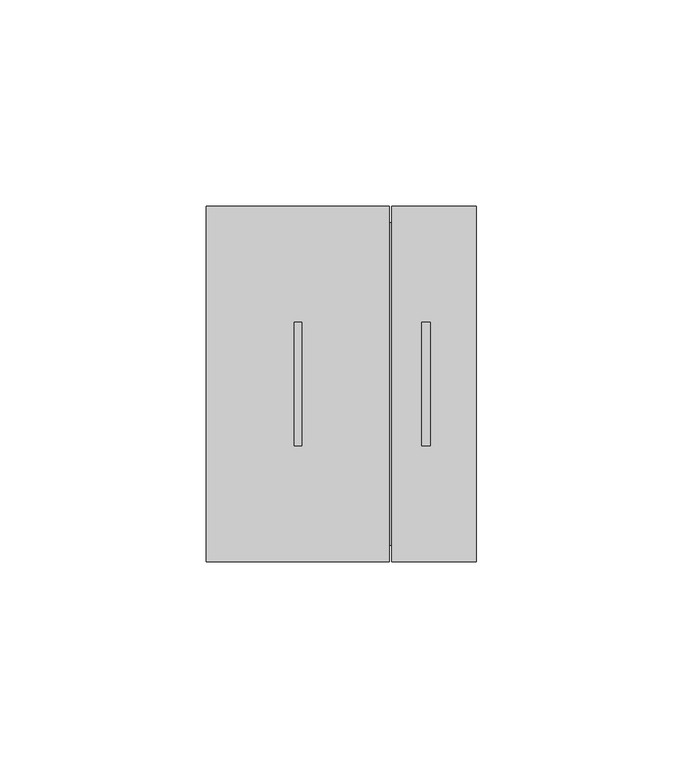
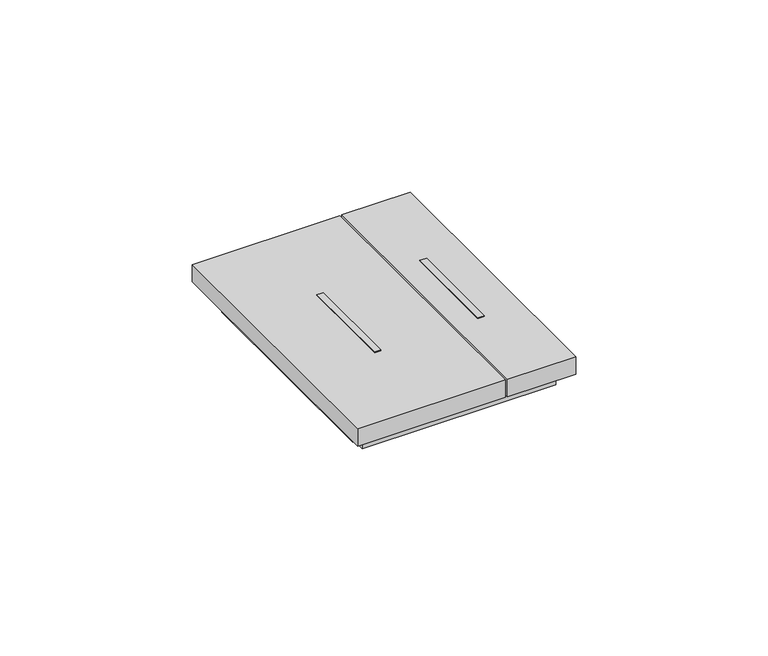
"""IFC4 building model written with IfcOpenShell, lengths in millimetres: proxy geometry, BT_LN_MHU-DispositiviDiComando_3M : Dispositivi di comando  - Art. K4652M3 - 3M - Cover sabbia."""

from ifc_helpers import new_model, si_unit, frame, origin, origin_with_axes, place, context, project, spatial, polyline, outline, extrude, source, transform, mapped, element, save


def electrical_fixtures_8138bb5d(model_context):
    return source(origin(), model_context, "Body", "SweptSolid", [
        extrude(outline(polyline([(-29.0, 39.0), (29.0, 39.0), (29.0, -39.0), (-29.0, -39.0), (-29.0, 39.0)])), frame((0.0, 0.0, 1.0), z_axis=(0.0, 0.0, 1.0), x_axis=(1.0, 0.0, 0.0)), (0.0, 0.0, 1.0), 4.5),
        extrude(outline(polyline([(-29.0, 34.0), (29.0, 34.0), (29.0, -34.0), (-29.0, -34.0), (-29.0, 34.0)])), origin_with_axes(), (0.0, 0.0, 1.0), 1.0),
        extrude(outline(polyline([(19.4453879, -15.0), (19.4453879, 15.0), (21.4453879, 15.0), (21.4453879, -15.0), (19.4453879, -15.0)])), frame((0.0, 0.0, 5.5), z_axis=(0.0, 0.0, 1.0), x_axis=(1.0, 0.0, 0.0)), (0.0, 0.0, 1.0), 5.5),
        extrude(outline(polyline([(-11.4842241, 15.0), (-9.625, 15.0), (-9.625, -15.0), (-11.4842241, -15.0), (-11.4842241, 15.0)])), frame((0.0, 0.0, 5.5), z_axis=(0.0, 0.0, 1.0), x_axis=(1.0, 0.0, 0.0)), (0.0, 0.0, 1.0), 5.5),
        extrude(outline(polyline([(32.7, 43.0), (32.7, -43.0), (12.1907759, -43.0), (12.1907759, 43.0), (32.7, 43.0)]), holes=[polyline([(21.4453879, -15.0), (21.4453879, 15.0), (19.4453879, 15.0), (19.4453879, -15.0), (21.4453879, -15.0)])]), frame((0.0, 0.0, 5.5), z_axis=(0.0, 0.0, 1.0), x_axis=(1.0, 0.0, 0.0)), (0.0, 0.0, 1.0), 5.5),
        extrude(outline(polyline([(-32.7, -43.0), (-32.7, 43.0), (11.5907759, 43.0), (11.5907759, -43.0), (-32.7, -43.0)]), holes=[polyline([(-11.4842241, 15.0), (-11.4842241, -15.0), (-9.625, -15.0), (-9.625, 15.0), (-11.4842241, 15.0)])]), frame((0.0, 0.0, 5.5), z_axis=(0.0, 0.0, 1.0), x_axis=(1.0, 0.0, 0.0)), (0.0, 0.0, 1.0), 5.5),
    ])


if __name__ == "__main__":
    model = new_model("IFC4")
    model_context = context("Model", 3, world=origin())
    ifc_project = project(units=[si_unit("LENGTHUNIT", "METRE", prefix="MILLI")], contexts=[model_context])
    site = spatial("IfcSite", under=ifc_project)
    building = spatial("IfcBuilding", under=site)
    placement = place(None, origin())
    electrical_fixtures_shape = electrical_fixtures_8138bb5d(model_context)
    element("IfcBuildingElementProxy", 1, Name="BT_LN_MHU-DispositiviDiComando_3M : Dispositivi di comando  - Art. K4652M3 - 3M - Cover sabbia", ObjectType="BT_LN_MHU-DispositiviDiComando_3M : Dispositivi di comando  - Art. K4652M3 - 3M - Cover sabbia", at=placement, inside=building, context=model_context, shape_type="MappedRepresentation", body=[
        mapped(electrical_fixtures_shape, transform((0.0, 0.0, 0.0), x_axis=(1.0, 0.0, 0.0), y_axis=(0.0, 1.0, 0.0), z_axis=(0.0, 0.0, 1.0))),
    ])
    save(model, "model.ifc")
